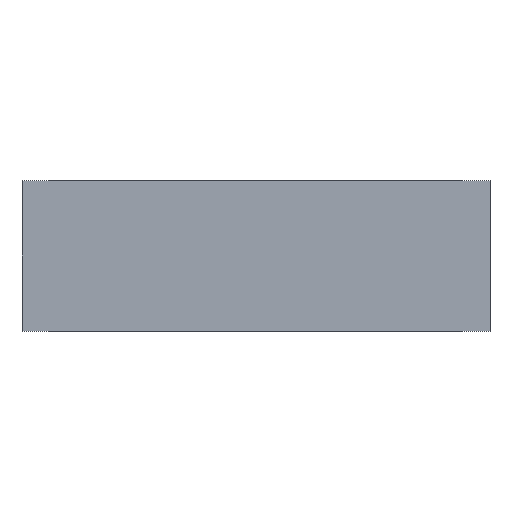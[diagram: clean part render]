
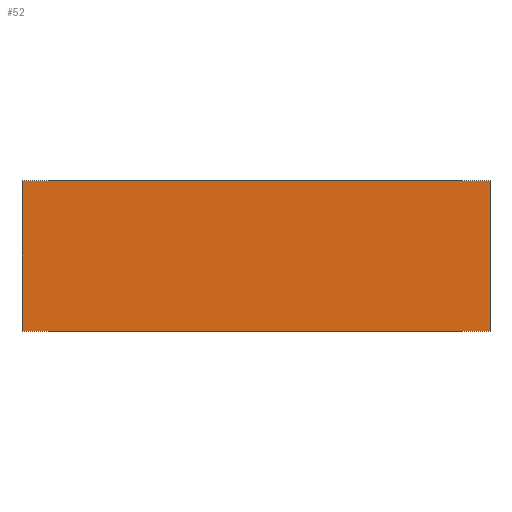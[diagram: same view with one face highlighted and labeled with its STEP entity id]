
A CAD part, front view. The second image highlights one B-rep face of the part: STEP entity #52.
In plain terms, the highlighted planar face has unit normal (0, -1, 0).
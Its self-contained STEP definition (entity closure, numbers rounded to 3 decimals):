
#19 = LINE ( 'NONE', #197, #20 ) ;
#20 = VECTOR ( 'NONE', #198, 1000. ) ;
#22 = LINE ( 'NONE', #218, #24 ) ;
#24 = VECTOR ( 'NONE', #199, 1000. ) ;
#52 = ADVANCED_FACE ( 'NONE', ( #600 ), #411, .F. ) ;
#83 = VERTEX_POINT ( 'NONE', #472 ) ;
#89 = VERTEX_POINT ( 'NONE', #489 ) ;
#94 = VERTEX_POINT ( 'NONE', #483 ) ;
#102 = VERTEX_POINT ( 'NONE', #497 ) ;
#119 = ORIENTED_EDGE ( 'NONE', *, *, #338, .T. ) ;
#137 = CARTESIAN_POINT ( 'NONE',  ( -101., 0., 65. ) ) ;
#147 = DIRECTION ( 'NONE',  ( 1., 0., 0. ) ) ;
#197 = CARTESIAN_POINT ( 'NONE',  ( -101., 0., 0. ) ) ;
#198 = DIRECTION ( 'NONE',  ( 1., 0., 0. ) ) ;
#199 = DIRECTION ( 'NONE',  ( 0., 0., -1. ) ) ;
#218 = CARTESIAN_POINT ( 'NONE',  ( 101., 0., 65. ) ) ;
#258 = EDGE_CURVE ( 'NONE', #83, #89, #635, .T. ) ;
#296 = EDGE_CURVE ( 'NONE', #83, #94, #701, .T. ) ;
#311 = AXIS2_PLACEMENT_3D ( 'NONE', #362, #531, #441 ) ;
#338 = EDGE_CURVE ( 'NONE', #89, #102, #19, .T. ) ;
#340 = EDGE_CURVE ( 'NONE', #94, #102, #22, .T. ) ;
#362 = CARTESIAN_POINT ( 'NONE',  ( -101., 0., 65. ) ) ;
#411 = PLANE ( 'NONE',  #311 ) ;
#441 = DIRECTION ( 'NONE',  ( -1., 0., 0. ) ) ;
#472 = CARTESIAN_POINT ( 'NONE',  ( -101., 0., 65. ) ) ;
#483 = CARTESIAN_POINT ( 'NONE',  ( 101., 0., 65. ) ) ;
#489 = CARTESIAN_POINT ( 'NONE',  ( -101., 0., 0. ) ) ;
#497 = CARTESIAN_POINT ( 'NONE',  ( 101., 0., 0. ) ) ;
#521 = CARTESIAN_POINT ( 'NONE',  ( -101., 0., 65. ) ) ;
#529 = DIRECTION ( 'NONE',  ( 0., 0., -1. ) ) ;
#531 = DIRECTION ( 'NONE',  ( 0., 1., 0. ) ) ;
#572 = ORIENTED_EDGE ( 'NONE', *, *, #258, .T. ) ;
#573 = ORIENTED_EDGE ( 'NONE', *, *, #296, .F. ) ;
#574 = ORIENTED_EDGE ( 'NONE', *, *, #340, .F. ) ;
#600 = FACE_OUTER_BOUND ( 'NONE', #873, .T. ) ;
#635 = LINE ( 'NONE', #521, #640 ) ;
#640 = VECTOR ( 'NONE', #529, 1000. ) ;
#701 = LINE ( 'NONE', #137, #702 ) ;
#702 = VECTOR ( 'NONE', #147, 1000. ) ;
#873 = EDGE_LOOP ( 'NONE', ( #119, #574, #573, #572 ) ) ;
